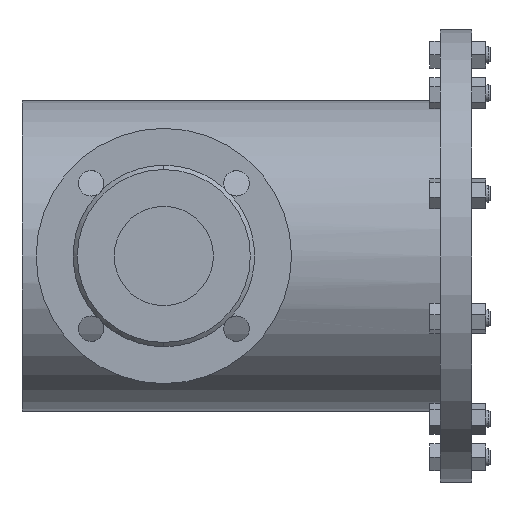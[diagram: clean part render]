
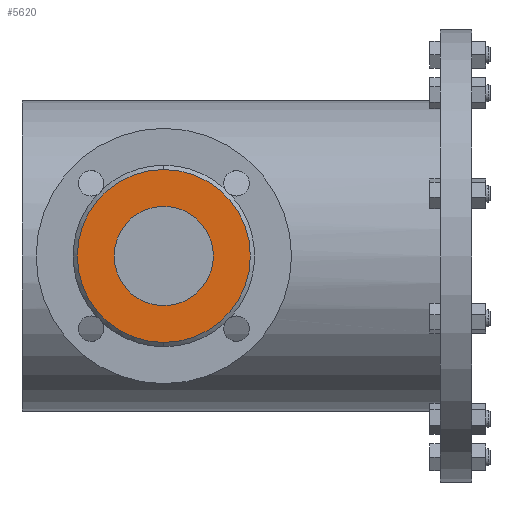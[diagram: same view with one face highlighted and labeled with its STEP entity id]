
A CAD part, left-side view. The second image highlights one B-rep face of the part: STEP entity #5620.
In plain terms, the highlighted planar face has unit normal (-1, 0, 0).
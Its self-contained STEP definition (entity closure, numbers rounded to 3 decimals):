
#475 = CARTESIAN_POINT ( 'NONE',  ( -210., 200., 0. ) ) ;
#544 = ORIENTED_EDGE ( 'NONE', *, *, #6438, .T. ) ;
#574 = DIRECTION ( 'NONE',  ( 0., 0., 1. ) ) ;
#583 = DIRECTION ( 'NONE',  ( -1., 0., 0. ) ) ;
#784 = FACE_BOUND ( 'NONE', #6758, .T. ) ;
#1157 = DIRECTION ( 'NONE',  ( 0., 0., -1. ) ) ;
#1619 = VERTEX_POINT ( 'NONE', #6649 ) ;
#1659 = CIRCLE ( 'NONE', #2074, 35. ) ;
#1803 = CIRCLE ( 'NONE', #3154, 61. ) ;
#2074 = AXIS2_PLACEMENT_3D ( 'NONE', #3872, #4546, #4383 ) ;
#2371 = ORIENTED_EDGE ( 'NONE', *, *, #6497, .F. ) ;
#2752 = CARTESIAN_POINT ( 'NONE',  ( -210., 200., 0. ) ) ;
#2809 = CIRCLE ( 'NONE', #7573, 61. ) ;
#3060 = EDGE_CURVE ( 'NONE', #7050, #5110, #3715, .T. ) ;
#3154 = AXIS2_PLACEMENT_3D ( 'NONE', #5637, #8317, #574 ) ;
#3381 = FACE_OUTER_BOUND ( 'NONE', #6580, .T. ) ;
#3500 = DIRECTION ( 'NONE',  ( 0., 0., 1. ) ) ;
#3715 = CIRCLE ( 'NONE', #6957, 35. ) ;
#3771 = DIRECTION ( 'NONE',  ( 1., 0., 0. ) ) ;
#3843 = DIRECTION ( 'NONE',  ( 0., 0., 1. ) ) ;
#3872 = CARTESIAN_POINT ( 'NONE',  ( -210., 200., 0. ) ) ;
#3964 = CARTESIAN_POINT ( 'NONE',  ( -210., 200., 0. ) ) ;
#4383 = DIRECTION ( 'NONE',  ( 0., 0., 1. ) ) ;
#4546 = DIRECTION ( 'NONE',  ( -1., 0., 0. ) ) ;
#4585 = ORIENTED_EDGE ( 'NONE', *, *, #5105, .T. ) ;
#4647 = CARTESIAN_POINT ( 'NONE',  ( -210., 200., 61. ) ) ;
#4831 = AXIS2_PLACEMENT_3D ( 'NONE', #475, #3771, #1157 ) ;
#5053 = VERTEX_POINT ( 'NONE', #4647 ) ;
#5105 = EDGE_CURVE ( 'NONE', #1619, #5053, #2809, .T. ) ;
#5110 = VERTEX_POINT ( 'NONE', #5307 ) ;
#5307 = CARTESIAN_POINT ( 'NONE',  ( -210., 200., -35. ) ) ;
#5620 = ADVANCED_FACE ( 'NONE', ( #784, #3381 ), #5965, .F. ) ;
#5637 = CARTESIAN_POINT ( 'NONE',  ( -210., 200., 0. ) ) ;
#5965 = PLANE ( 'NONE',  #4831 ) ;
#6266 = CARTESIAN_POINT ( 'NONE',  ( -210., 200., 35. ) ) ;
#6438 = EDGE_CURVE ( 'NONE', #5053, #1619, #1803, .T. ) ;
#6497 = EDGE_CURVE ( 'NONE', #5110, #7050, #1659, .T. ) ;
#6580 = EDGE_LOOP ( 'NONE', ( #4585, #544 ) ) ;
#6649 = CARTESIAN_POINT ( 'NONE',  ( -210., 200., -61. ) ) ;
#6758 = EDGE_LOOP ( 'NONE', ( #8337, #2371 ) ) ;
#6957 = AXIS2_PLACEMENT_3D ( 'NONE', #3964, #583, #3843 ) ;
#7050 = VERTEX_POINT ( 'NONE', #6266 ) ;
#7573 = AXIS2_PLACEMENT_3D ( 'NONE', #2752, #7995, #3500 ) ;
#7995 = DIRECTION ( 'NONE',  ( -1., 0., 0. ) ) ;
#8317 = DIRECTION ( 'NONE',  ( -1., 0., 0. ) ) ;
#8337 = ORIENTED_EDGE ( 'NONE', *, *, #3060, .F. ) ;
